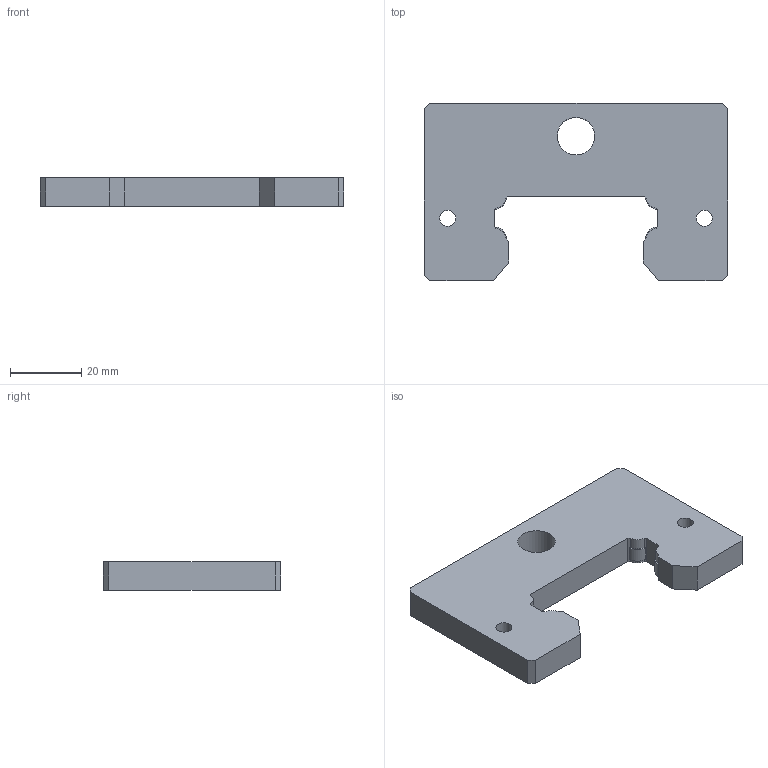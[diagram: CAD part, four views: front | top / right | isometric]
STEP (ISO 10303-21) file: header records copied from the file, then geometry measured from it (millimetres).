
FILE_DESCRIPTION (( 'STEP AP203' ), '1' );
FILE_NAME ('MF 45A.STEP', '2014-12-02T23:41:30', ( 'john' ), ( '' ), 'SwSTEP 2.0', 'SolidWorks 2013', '' );
FILE_SCHEMA (( 'CONFIG_CONTROL_DESIGN' ));
Length unit declared in the file: millimetre
Products named in the file (1): MF 45A
Bounding box: 85 x 49.7 x 8 mm (x, y, z)
Volume: 25061.9 mm3; surface area: 9291.6 mm2
Topology: 1 solids, 1 shells, 49 faces, 141 edges, 94 vertices
Faces by surface type: plane 34, cylinder 15
Full cylindrical faces by diameter (mm): 4.5 x2, 10.5 x1
Entity records: 1679 total; most frequent: CARTESIAN_POINT 282, ORIENTED_EDGE 276, DIRECTION 268, EDGE_CURVE 138, VECTOR 108, LINE 108, VERTEX_POINT 94, AXIS2_PLACEMENT_3D 80
